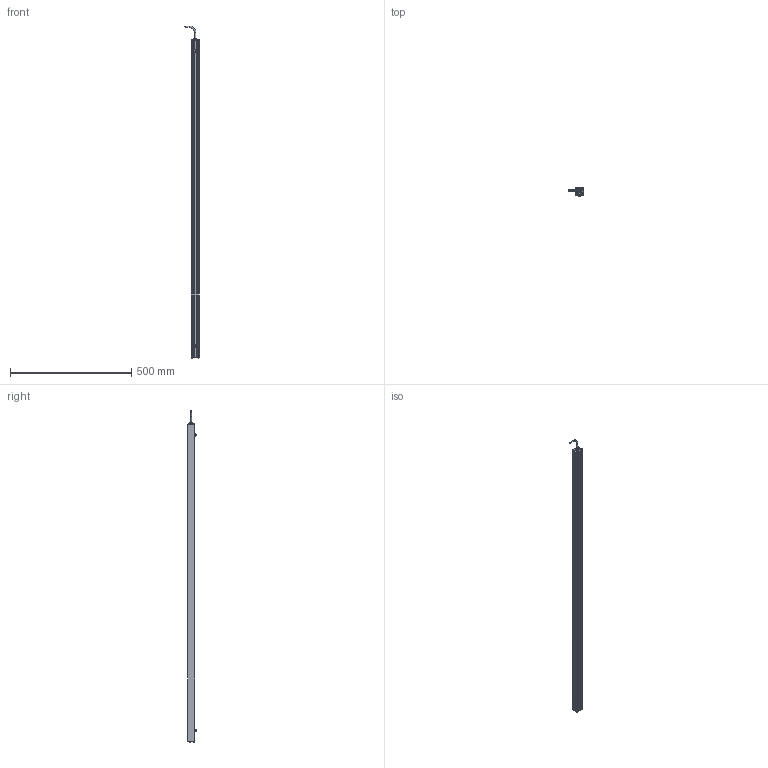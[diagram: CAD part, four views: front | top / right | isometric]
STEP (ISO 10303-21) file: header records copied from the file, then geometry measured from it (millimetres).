
FILE_DESCRIPTION (( 'STEP AP214' ), '1' );
FILE_NAME ('AL150XXXX_AL150300.stp', '2021-04-29T15:41:39', ( '' ), ( '' ), 'SwSTEP 2.0', 'SolidWorks 2018', '' );
FILE_SCHEMA (( 'AUTOMOTIVE_DESIGN' ));
Length unit declared in the file: inch
Products named in the file (12): Part1^AL150XXXX; HN-M6_90592A016; 093145_93701A253; CHM6x8_91460A312; 150-01-005-XXX_150-01-005-300; 1157 (no strap); 116-02-007; AL150XXXX_AL150300; 150-03-006-XXXX_150-03-006-300; 092408_TRUNCATED; Part2^AL150XXXX; 116-02-006
Assembly tree (18 placements, depth 2):
  Part1^AL150XXXX
  AL150XXXX_AL150300
    150-01-005-XXX_150-01-005-300
    116-02-006
    093145_93701A253  x8
    HN-M6_90592A016  x2
    CHM6x8_91460A312  x2
    150-03-006-XXXX_150-03-006-300
    116-02-007
    1157 (no strap)
    092408_TRUNCATED
  Part2^AL150XXXX
Bounding box: 60.68 x 33.84 x 1371.27 mm (x, y, z)
Volume: 408232.3 mm3; surface area: 432137 mm2
Topology: 26 solids, 26 shells, 1306 faces, 3436 edges, 2127 vertices
Faces by surface type: cylinder 805, cone 249, plane 153, torus 59, bspline 32, sphere 8
Entity records: 18285 total; most frequent: CARTESIAN_POINT 6069, ORIENTED_EDGE 2496, DIRECTION 2311, EDGE_CURVE 1248, AXIS2_PLACEMENT_3D 881, VERTEX_POINT 800, VECTOR 549, LINE 549
